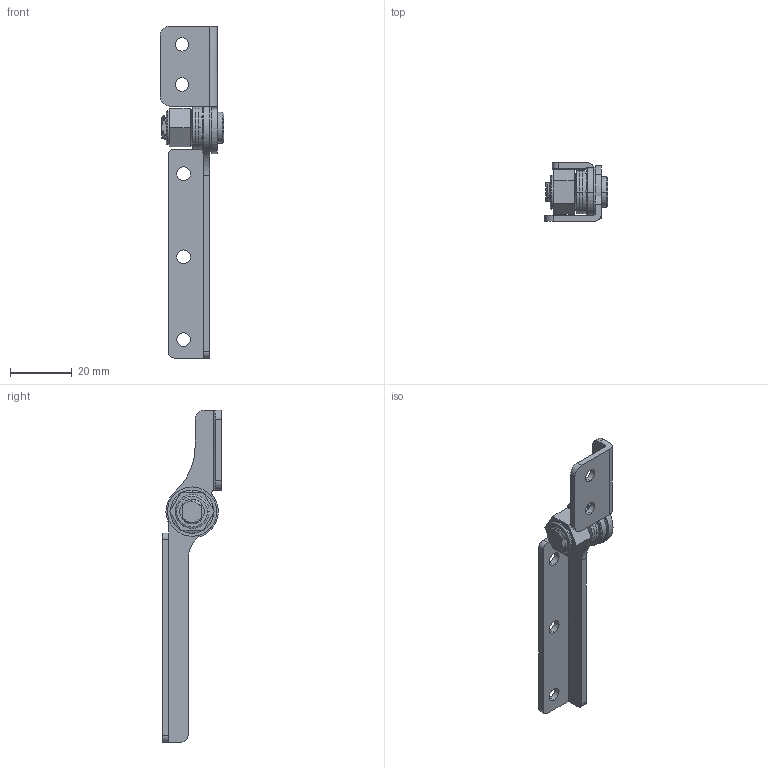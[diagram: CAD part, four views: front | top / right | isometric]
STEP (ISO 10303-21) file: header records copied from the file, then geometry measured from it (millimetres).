
FILE_DESCRIPTION (( 'STEP AP203' ), '1' );
FILE_NAME ('XG11-047-3L.STEP', '2025-07-26T07:55:44', ( '微软用户' ), ( '微软中国' ), 'SwSTEP 2.0', 'SolidWorks 2024', '' );
FILE_SCHEMA (( 'CONFIG_CONTROL_DESIGN' ));
Length unit declared in the file: millimetre
Products named in the file (1): XG11-047-3L
Bounding box: 20.5 x 19.06 x 107.81 mm (x, y, z)
Volume: 6470.3 mm3; surface area: 8366 mm2
Topology: 9 solids, 9 shells, 206 faces, 540 edges, 355 vertices
Faces by surface type: cylinder 84, plane 75, bspline 32, cone 13, torus 2
Entity records: 10887 total; most frequent: CARTESIAN_POINT 5875, ORIENTED_EDGE 1080, DIRECTION 931, EDGE_CURVE 540, VERTEX_POINT 355, AXIS2_PLACEMENT_3D 344, LINE 243, VECTOR 243
